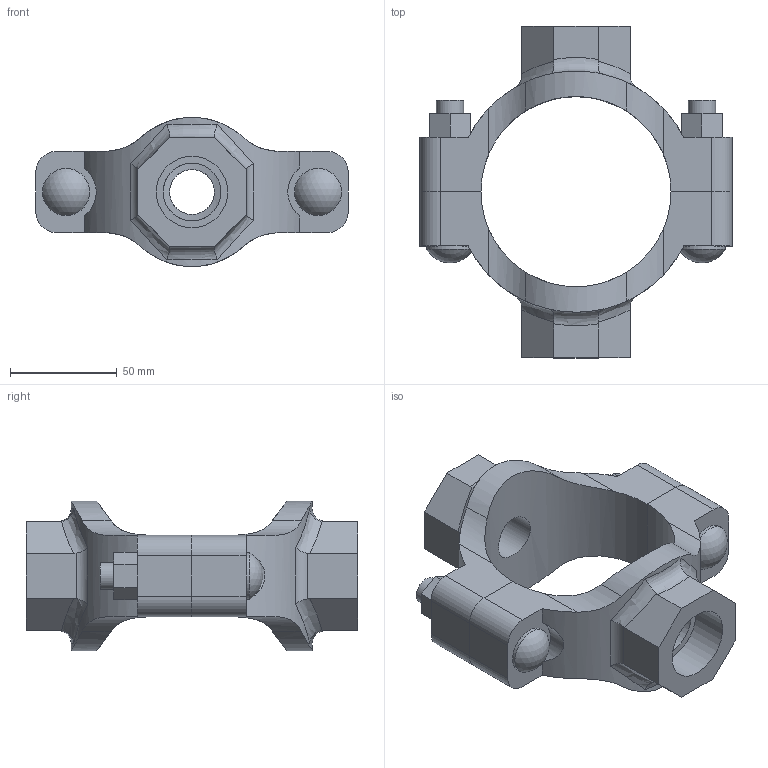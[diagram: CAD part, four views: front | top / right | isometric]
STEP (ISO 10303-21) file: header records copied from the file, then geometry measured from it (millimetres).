
FILE_DESCRIPTION(/* description */ ('VIC MECH-T BRANCH OUTLET CROSS STYLE 920N (THD)','CAx-IF Rec.Pracs.---Representation and Presentation of Product Manufacturing Information (PMI)---4.0---2014-10-13'),/* implementation_level */ '2;1');
FILE_NAME(/* name */ 'C:\Users\Vjadhav\AppData\Roaming\Autodesk\ApplicationPlugins\Back Up\Victaulic_IPS_Mechanical-Cross Outlet_Style 920N (FPT)\Victaulic_IPS_Mechanical-Cross Outlet_03.0x0.75x01.0 (80x20x25).stp',/* time_stamp */ '2020-08-06T18:57:18+05:00',/* author */ ('Vjadhav'),/* organization */ ('Victaulic'),/* preprocessor_version */ 'ST-DEVELOPER v17.2',/* originating_system */ 'Autodesk Inventor 2019',/* authorisation */ '');
FILE_SCHEMA (('AP242_MANAGED_MODEL_BASED_3D_ENGINEERING_MIM_LF { 1 0 10303 442 1 1 4 }'));
Length unit declared in the file: inch
Products named in the file (3): 920NT-03.0x0.75x01.0; 920NT-03.0x0.75; 920NT-03.0x01.0
Assembly tree (2 placements, depth 2):
  920NT-03.0x0.75x01.0
    920NT-03.0x0.75
    920NT-03.0x01.0
Bounding box: 146.05 x 155.19 x 69.84 mm (x, y, z)
Volume: 306528.8 mm3; surface area: 72146.7 mm2
Topology: 2 solids, 2 shells, 132 faces, 350 edges, 236 vertices
Faces by surface type: plane 68, cylinder 50, bspline 8, torus 4, sphere 2
Full cylindrical faces by diameter (mm): 12.7 x4, 20.93 x1, 21.982 x2, 26.67 x1, 26.987 x1, 33.401 x1
Entity records: 5086 total; most frequent: CARTESIAN_POINT 1573, ORIENTED_EDGE 700, DIRECTION 648, EDGE_CURVE 350, VERTEX_POINT 236, AXIS2_PLACEMENT_3D 231, LINE 186, VECTOR 186
